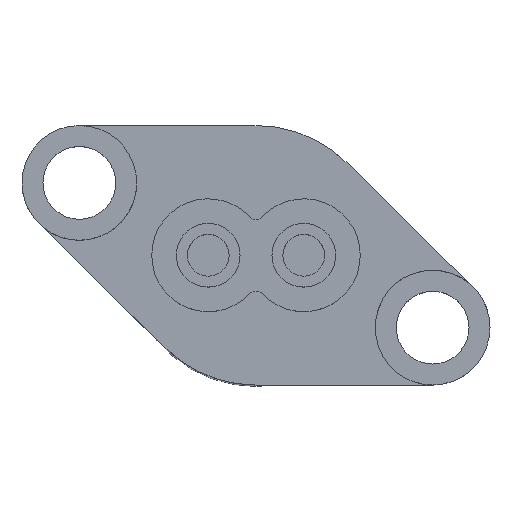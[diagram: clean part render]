
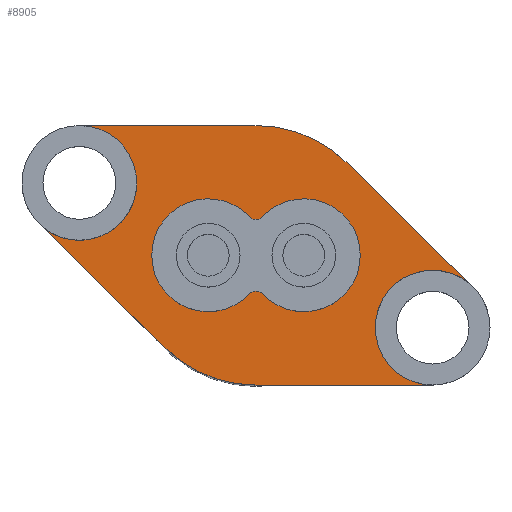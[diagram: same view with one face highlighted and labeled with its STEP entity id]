
A CAD part, top view. The second image highlights one B-rep face of the part: STEP entity #8905.
In plain terms, the highlighted planar face has unit normal (0, 0, 1).
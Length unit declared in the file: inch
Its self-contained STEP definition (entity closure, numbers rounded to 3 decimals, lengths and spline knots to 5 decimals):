
#15 = ORIENTED_EDGE ( 'NONE', *, *, #42499, .F. ) ;
#72 = EDGE_LOOP ( 'NONE', ( #3484, #14700, #37196, #32057, #18845, #11275, #36929, #35900, #24099, #30421 ) ) ;
#586 = DIRECTION ( 'NONE',  ( 0., 0., -1. ) ) ;
#605 = DIRECTION ( 'NONE',  ( 1., 0., 0. ) ) ;
#805 = DIRECTION ( 'NONE',  ( -1., 0., 0. ) ) ;
#1536 = CARTESIAN_POINT ( 'NONE',  ( 0.194, -0.0795, 0.623 ) ) ;
#1634 = CARTESIAN_POINT ( 'NONE',  ( -0.23821, 0.03462, 0.623 ) ) ;
#1882 = FACE_OUTER_BOUND ( 'NONE', #72, .T. ) ;
#3484 = ORIENTED_EDGE ( 'NONE', *, *, #23523, .T. ) ;
#4074 = EDGE_CURVE ( 'NONE', #31031, #7018, #26124, .T. ) ;
#4131 = CARTESIAN_POINT ( 'NONE',  ( 0., -0.1425, 0.623 ) ) ;
#4932 = AXIS2_PLACEMENT_3D ( 'NONE', #21475, #10884, #605 ) ;
#4996 = CARTESIAN_POINT ( 'NONE',  ( -0.1, -0.10152, 0.623 ) ) ;
#5037 = AXIS2_PLACEMENT_3D ( 'NONE', #1536, #40250, #6857 ) ;
#5171 = AXIS2_PLACEMENT_3D ( 'NONE', #21623, #586, #34974 ) ;
#5458 = EDGE_CURVE ( 'NONE', #33692, #16707, #42196, .T. ) ;
#5951 = ORIENTED_EDGE ( 'NONE', *, *, #30388, .F. ) ;
#6019 = LINE ( 'NONE', #15820, #30260 ) ;
#6123 = DIRECTION ( 'NONE',  ( 0., 0., 1. ) ) ;
#6630 = AXIS2_PLACEMENT_3D ( 'NONE', #42980, #6123, #9853 ) ;
#6857 = DIRECTION ( 'NONE',  ( 1., 0., 0. ) ) ;
#6966 = ORIENTED_EDGE ( 'NONE', *, *, #17038, .F. ) ;
#7018 = VERTEX_POINT ( 'NONE', #4996 ) ;
#7195 = DIRECTION ( 'NONE',  ( 1., 0., 0. ) ) ;
#8395 = EDGE_CURVE ( 'NONE', #33692, #19539, #41544, .T. ) ;
#8878 = CIRCLE ( 'NONE', #38152, 0.062 ) ;
#8905 = ADVANCED_FACE ( 'NONE', ( #35472, #1882 ), #42212, .T. ) ;
#9495 = AXIS2_PLACEMENT_3D ( 'NONE', #26889, #10139, #23389 ) ;
#9524 = EDGE_CURVE ( 'NONE', #19539, #29852, #40321, .T. ) ;
#9853 = DIRECTION ( 'NONE',  ( 1., 0., 0. ) ) ;
#10139 = DIRECTION ( 'NONE',  ( 0., 0., 1. ) ) ;
#10884 = DIRECTION ( 'NONE',  ( 0., 0., 1. ) ) ;
#11275 = ORIENTED_EDGE ( 'NONE', *, *, #21912, .T. ) ;
#11955 = VERTEX_POINT ( 'NONE', #4131 ) ;
#12264 = EDGE_CURVE ( 'NONE', #36152, #41031, #18860, .T. ) ;
#12557 = CARTESIAN_POINT ( 'NONE',  ( 0., 0., 0.623 ) ) ;
#13195 = CARTESIAN_POINT ( 'NONE',  ( -0.00729, -0.04243, 0.623 ) ) ;
#13819 = AXIS2_PLACEMENT_3D ( 'NONE', #18645, #28903, #39185 ) ;
#13923 = DIRECTION ( 'NONE',  ( 0., 0., 1. ) ) ;
#14064 = CARTESIAN_POINT ( 'NONE',  ( -0.194, 0.1425, 0.623 ) ) ;
#14700 = ORIENTED_EDGE ( 'NONE', *, *, #12264, .F. ) ;
#14951 = DIRECTION ( 'NONE',  ( 0., 0., -1. ) ) ;
#15181 = EDGE_LOOP ( 'NONE', ( #16006, #15, #5951, #20933, #6966 ) ) ;
#15588 = DIRECTION ( 'NONE',  ( -1., 0., 0. ) ) ;
#15820 = CARTESIAN_POINT ( 'NONE',  ( 0., -0.1425, 0.623 ) ) ;
#16006 = ORIENTED_EDGE ( 'NONE', *, *, #26379, .F. ) ;
#16256 = CARTESIAN_POINT ( 'NONE',  ( 0., 0.1425, 0.623 ) ) ;
#16707 = VERTEX_POINT ( 'NONE', #43001 ) ;
#17028 = CIRCLE ( 'NONE', #19775, 0.062 ) ;
#17038 = EDGE_CURVE ( 'NONE', #24877, #33586, #27247, .T. ) ;
#17062 = CIRCLE ( 'NONE', #30978, 0.1425 ) ;
#17544 = CIRCLE ( 'NONE', #5037, 0.063 ) ;
#18645 = CARTESIAN_POINT ( 'NONE',  ( 0., 0., 0.623 ) ) ;
#18845 = ORIENTED_EDGE ( 'NONE', *, *, #30182, .T. ) ;
#18860 = CIRCLE ( 'NONE', #4932, 0.063 ) ;
#19539 = VERTEX_POINT ( 'NONE', #20944 ) ;
#19589 = DIRECTION ( 'NONE',  ( 1., 0., 0. ) ) ;
#19661 = CARTESIAN_POINT ( 'NONE',  ( -0.131, 0.0795, 0.623 ) ) ;
#19731 = AXIS2_PLACEMENT_3D ( 'NONE', #32699, #20029, #19589 ) ;
#19775 = AXIS2_PLACEMENT_3D ( 'NONE', #27859, #13923, #7195 ) ;
#20029 = DIRECTION ( 'NONE',  ( 0., 0., 1. ) ) ;
#20255 = AXIS2_PLACEMENT_3D ( 'NONE', #35025, #14951, #15588 ) ;
#20862 = CARTESIAN_POINT ( 'NONE',  ( -0.00729, 0.04243, 0.623 ) ) ;
#20933 = ORIENTED_EDGE ( 'NONE', *, *, #42268, .F. ) ;
#20944 = CARTESIAN_POINT ( 'NONE',  ( 0.1, 0.10152, 0.623 ) ) ;
#21475 = CARTESIAN_POINT ( 'NONE',  ( -0.194, 0.0795, 0.623 ) ) ;
#21623 = CARTESIAN_POINT ( 'NONE',  ( 0., -0.04927, 0.623 ) ) ;
#21683 = CARTESIAN_POINT ( 'NONE',  ( 0.00729, 0.04243, 0.623 ) ) ;
#21709 = CARTESIAN_POINT ( 'NONE',  ( 0.23821, -0.03462, 0.623 ) ) ;
#21841 = DIRECTION ( 'NONE',  ( 1., 0., 0. ) ) ;
#21912 = EDGE_CURVE ( 'NONE', #11955, #26569, #6019, .T. ) ;
#22328 = VECTOR ( 'NONE', #31713, 39.37008 ) ;
#22421 = VERTEX_POINT ( 'NONE', #13195 ) ;
#23389 = DIRECTION ( 'NONE',  ( 1., 0., 0. ) ) ;
#23523 = EDGE_CURVE ( 'NONE', #29852, #41031, #40539, .T. ) ;
#24099 = ORIENTED_EDGE ( 'NONE', *, *, #8395, .T. ) ;
#24770 = VECTOR ( 'NONE', #805, 39.37008 ) ;
#24877 = VERTEX_POINT ( 'NONE', #21683 ) ;
#25612 = DIRECTION ( 'NONE',  ( 1., 0., 0. ) ) ;
#25759 = CARTESIAN_POINT ( 'NONE',  ( 0.0525, 0., 0.623 ) ) ;
#26061 = DIRECTION ( 'NONE',  ( 1., 0., 0. ) ) ;
#26124 = LINE ( 'NONE', #39254, #39385 ) ;
#26379 = EDGE_CURVE ( 'NONE', #38124, #24877, #8878, .T. ) ;
#26569 = VERTEX_POINT ( 'NONE', #26861 ) ;
#26861 = CARTESIAN_POINT ( 'NONE',  ( 0.194, -0.1425, 0.623 ) ) ;
#26889 = CARTESIAN_POINT ( 'NONE',  ( 0.194, -0.0795, 0.623 ) ) ;
#27247 = CIRCLE ( 'NONE', #20255, 0.01 ) ;
#27859 = CARTESIAN_POINT ( 'NONE',  ( -0.0525, 0., 0.623 ) ) ;
#28903 = DIRECTION ( 'NONE',  ( 0., 0., 1. ) ) ;
#28918 = DIRECTION ( 'NONE',  ( 0., 0., 1. ) ) ;
#29852 = VERTEX_POINT ( 'NONE', #16256 ) ;
#30182 = EDGE_CURVE ( 'NONE', #7018, #11955, #17062, .T. ) ;
#30260 = VECTOR ( 'NONE', #25612, 39.37008 ) ;
#30388 = EDGE_CURVE ( 'NONE', #38015, #22421, #40794, .T. ) ;
#30421 = ORIENTED_EDGE ( 'NONE', *, *, #9524, .T. ) ;
#30978 = AXIS2_PLACEMENT_3D ( 'NONE', #12557, #28918, #26061 ) ;
#31031 = VERTEX_POINT ( 'NONE', #1634 ) ;
#31664 = CIRCLE ( 'NONE', #5171, 0.01 ) ;
#31713 = DIRECTION ( 'NONE',  ( -0.712, 0.702, 0. ) ) ;
#32057 = ORIENTED_EDGE ( 'NONE', *, *, #4074, .T. ) ;
#32064 = CARTESIAN_POINT ( 'NONE',  ( 0.00729, -0.04243, 0.623 ) ) ;
#32181 = CARTESIAN_POINT ( 'NONE',  ( 0., 0., 0.623 ) ) ;
#32555 = DIRECTION ( 'NONE',  ( 0., 0., 1. ) ) ;
#32699 = CARTESIAN_POINT ( 'NONE',  ( -0.194, 0.0795, 0.623 ) ) ;
#33586 = VERTEX_POINT ( 'NONE', #20862 ) ;
#33692 = VERTEX_POINT ( 'NONE', #21709 ) ;
#34284 = AXIS2_PLACEMENT_3D ( 'NONE', #32181, #38763, #35675 ) ;
#34974 = DIRECTION ( 'NONE',  ( -1., 0., 0. ) ) ;
#34990 = CARTESIAN_POINT ( 'NONE',  ( 0.1, 0.10152, 0.623 ) ) ;
#35025 = CARTESIAN_POINT ( 'NONE',  ( 0., 0.04927, 0.623 ) ) ;
#35472 = FACE_BOUND ( 'NONE', #15181, .T. ) ;
#35675 = DIRECTION ( 'NONE',  ( 1., 0., 0. ) ) ;
#35900 = ORIENTED_EDGE ( 'NONE', *, *, #5458, .F. ) ;
#36152 = VERTEX_POINT ( 'NONE', #19661 ) ;
#36188 = DIRECTION ( 'NONE',  ( 0.712, -0.702, 0. ) ) ;
#36708 = CARTESIAN_POINT ( 'NONE',  ( -0.1145, 0., 0.623 ) ) ;
#36929 = ORIENTED_EDGE ( 'NONE', *, *, #39188, .F. ) ;
#37196 = ORIENTED_EDGE ( 'NONE', *, *, #42186, .F. ) ;
#37925 = CARTESIAN_POINT ( 'NONE',  ( -0.194, 0.1425, 0.623 ) ) ;
#38015 = VERTEX_POINT ( 'NONE', #36708 ) ;
#38124 = VERTEX_POINT ( 'NONE', #32064 ) ;
#38152 = AXIS2_PLACEMENT_3D ( 'NONE', #25759, #32555, #21841 ) ;
#38630 = CIRCLE ( 'NONE', #19731, 0.063 ) ;
#38763 = DIRECTION ( 'NONE',  ( 0., 0., 1. ) ) ;
#39185 = DIRECTION ( 'NONE',  ( 1., 0., 0. ) ) ;
#39188 = EDGE_CURVE ( 'NONE', #16707, #26569, #17544, .T. ) ;
#39254 = CARTESIAN_POINT ( 'NONE',  ( -0.23821, 0.03462, 0.623 ) ) ;
#39385 = VECTOR ( 'NONE', #36188, 39.37008 ) ;
#40250 = DIRECTION ( 'NONE',  ( 0., 0., 1. ) ) ;
#40321 = CIRCLE ( 'NONE', #13819, 0.1425 ) ;
#40539 = LINE ( 'NONE', #37925, #24770 ) ;
#40794 = CIRCLE ( 'NONE', #6630, 0.062 ) ;
#41031 = VERTEX_POINT ( 'NONE', #14064 ) ;
#41544 = LINE ( 'NONE', #34990, #22328 ) ;
#42186 = EDGE_CURVE ( 'NONE', #31031, #36152, #38630, .T. ) ;
#42196 = CIRCLE ( 'NONE', #9495, 0.063 ) ;
#42212 = PLANE ( 'NONE',  #34284 ) ;
#42268 = EDGE_CURVE ( 'NONE', #33586, #38015, #17028, .T. ) ;
#42499 = EDGE_CURVE ( 'NONE', #22421, #38124, #31664, .T. ) ;
#42980 = CARTESIAN_POINT ( 'NONE',  ( -0.0525, 0., 0.623 ) ) ;
#43001 = CARTESIAN_POINT ( 'NONE',  ( 0.131, -0.0795, 0.623 ) ) ;
